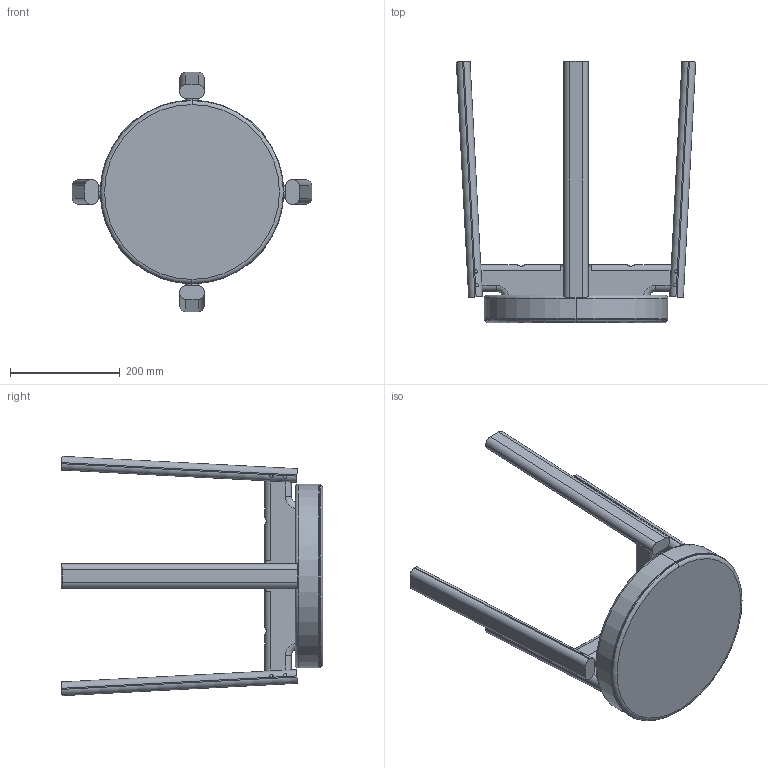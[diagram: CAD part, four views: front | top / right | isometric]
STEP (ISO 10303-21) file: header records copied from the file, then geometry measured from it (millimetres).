
FILE_DESCRIPTION (( 'STEP AP203' ), '1' );
FILE_NAME ('Passage Stool upholstered seat.STEP', '2023-11-17T12:25:16', ( '' ), ( '' ), 'SwSTEP 2.0', 'SolidWorks 2022', '' );
FILE_SCHEMA (( 'CONFIG_CONTROL_DESIGN' ));
Length unit declared in the file: millimetre
Products named in the file (14): Ø6 Dowle; rampa_440618(M6x18).stp; x Joint 1; Leg; Upholstered seat; x Joint 2; Passage Stool upholstered seat
Assembly tree (19 placements, depth 2):
  Passage Stool upholstered seat
    x Joint 2
    x Joint 1
    Leg  x4
    Ø6 Dowle
    Ø6 Dowle
    Ø6 Dowle
    Ø6 Dowle
    Ø6 Dowle
    Ø6 Dowle
    Ø6 Dowle
    Ø6 Dowle
    rampa_440618(M6x18).stp  x4
    Upholstered seat
Bounding box: 436.76 x 476.99 x 436.76 mm (x, y, z)
Volume: 6617456 mm3; surface area: 583834.7 mm2
Topology: 19 solids, 19 shells, 441 faces, 1064 edges, 650 vertices
Faces by surface type: cylinder 194, plane 143, cone 72, torus 24, bspline 8
Entity records: 12172 total; most frequent: CARTESIAN_POINT 3471, DIRECTION 1544, ORIENTED_EDGE 1448, EDGE_CURVE 724, AXIS2_PLACEMENT_3D 607, VERTEX_POINT 452, LINE 330, VECTOR 330
